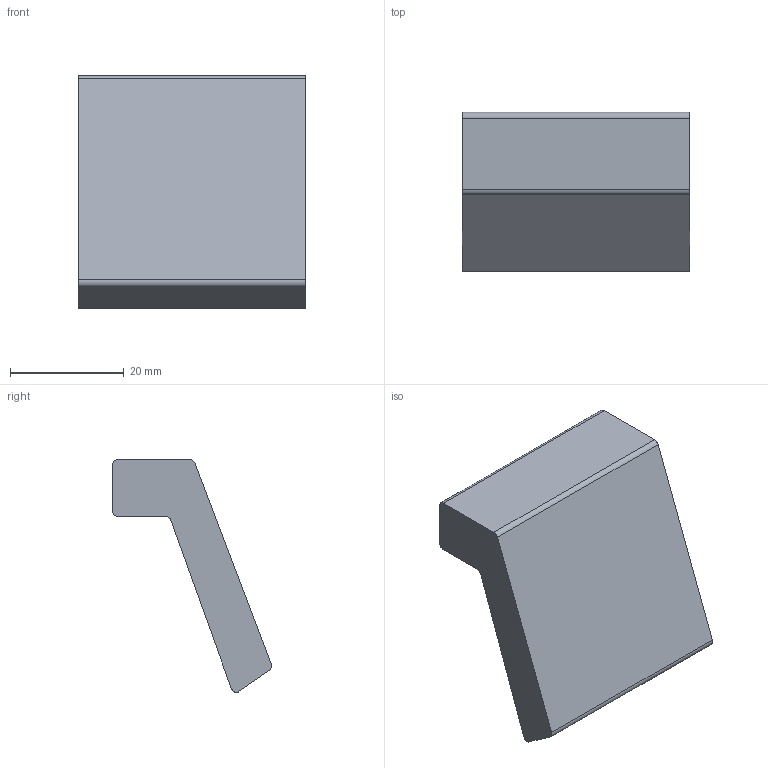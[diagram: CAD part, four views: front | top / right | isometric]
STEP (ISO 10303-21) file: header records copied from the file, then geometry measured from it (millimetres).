
FILE_DESCRIPTION( ( '' ), '1' );
FILE_NAME( 'C:/Documents and Settings/Nikhil/Desktop/Nik/Done/9105794.stp', '2013-10-23T11:33:39', ( '' ), ( '' ), ' ', ' ', ' ' );
FILE_SCHEMA( ( 'automotive_design' ) );
Length unit declared in the file: millimetre
Products named in the file (1): 1
Bounding box: 40 x 28 x 41 mm (x, y, z)
Volume: 15907.8 mm3; surface area: 5535.8 mm2
Topology: 1 solids, 1 shells, 21 faces, 51 edges, 34 vertices
Faces by surface type: cylinder 11, plane 10
Entity records: 1244 total; most frequent: DIRECTION 117, STYLED_ITEM 107, PRESENTATION_STYLE_ASSIGNMENT 107, CARTESIAN_POINT 107, COLOUR_RGB 107, ORIENTED_EDGE 102, EDGE_CURVE 51, CURVE_STYLE 51
